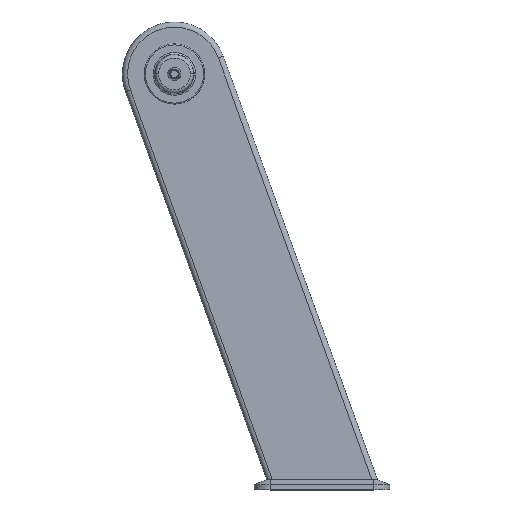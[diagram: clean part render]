
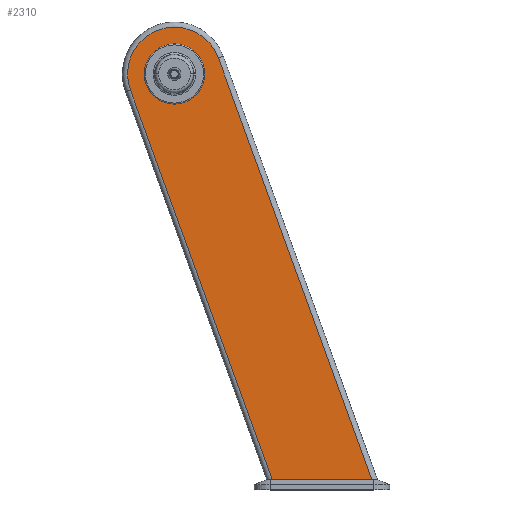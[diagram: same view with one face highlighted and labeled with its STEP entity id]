
A CAD part, top view. The second image highlights one B-rep face of the part: STEP entity #2310.
In plain terms, the highlighted planar face has unit normal (0, 0, 1).
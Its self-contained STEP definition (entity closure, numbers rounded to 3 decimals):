
#37 = VERTEX_POINT ( 'NONE', #642 ) ;
#413 = AXIS2_PLACEMENT_3D ( 'NONE', #1711, #523, #1894 ) ;
#495 = ORIENTED_EDGE ( 'NONE', *, *, #687, .F. ) ;
#503 = FACE_OUTER_BOUND ( 'NONE', #1535, .T. ) ;
#518 = DIRECTION ( 'NONE',  ( 0., 0., 1. ) ) ;
#523 = DIRECTION ( 'NONE',  ( 0., 0., 1. ) ) ;
#642 = CARTESIAN_POINT ( 'NONE',  ( 379.673, -780., 31.25 ) ) ;
#669 = DIRECTION ( 'NONE',  ( 0., 0., 1. ) ) ;
#671 = CARTESIAN_POINT ( 'NONE',  ( 84.572, 30.782, 31.25 ) ) ;
#687 = EDGE_CURVE ( 'NONE', #1901, #1868, #2146, .T. ) ;
#810 = DIRECTION ( 'NONE',  ( 1., 0., 0. ) ) ;
#817 = ORIENTED_EDGE ( 'NONE', *, *, #1228, .T. ) ;
#828 = EDGE_CURVE ( 'NONE', #2133, #1903, #1273, .T. ) ;
#842 = ORIENTED_EDGE ( 'NONE', *, *, #1104, .T. ) ;
#883 = EDGE_CURVE ( 'NONE', #1868, #1901, #1657, .T. ) ;
#929 = CARTESIAN_POINT ( 'NONE',  ( 0., 0., 31.25 ) ) ;
#972 = VECTOR ( 'NONE', #810, 1000. ) ;
#975 = EDGE_CURVE ( 'NONE', #37, #2133, #1030, .T. ) ;
#982 = CARTESIAN_POINT ( 'NONE',  ( 84.572, 30.782, 31.25 ) ) ;
#997 = CARTESIAN_POINT ( 'NONE',  ( -84.572, -30.782, 31.25 ) ) ;
#1030 = LINE ( 'NONE', #982, #2421 ) ;
#1056 = FACE_BOUND ( 'NONE', #2139, .T. ) ;
#1104 = EDGE_CURVE ( 'NONE', #1106, #37, #1794, .T. ) ;
#1106 = VERTEX_POINT ( 'NONE', #1958 ) ;
#1137 = DIRECTION ( 'NONE',  ( 1., 0., 0. ) ) ;
#1179 = CARTESIAN_POINT ( 'NONE',  ( 58., 0., 31.25 ) ) ;
#1228 = EDGE_CURVE ( 'NONE', #1903, #1106, #1496, .T. ) ;
#1273 = CIRCLE ( 'NONE', #1908, 90. ) ;
#1364 = CARTESIAN_POINT ( 'NONE',  ( -58., 0., 31.25 ) ) ;
#1422 = DIRECTION ( 'NONE',  ( 0.342, -0.94, 0. ) ) ;
#1496 = LINE ( 'NONE', #2001, #2507 ) ;
#1535 = EDGE_LOOP ( 'NONE', ( #817, #842, #2520, #1696 ) ) ;
#1657 = CIRCLE ( 'NONE', #413, 58. ) ;
#1696 = ORIENTED_EDGE ( 'NONE', *, *, #828, .T. ) ;
#1706 = CARTESIAN_POINT ( 'NONE',  ( 0., 0., 31.25 ) ) ;
#1711 = CARTESIAN_POINT ( 'NONE',  ( 0., 0., 31.25 ) ) ;
#1769 = CARTESIAN_POINT ( 'NONE',  ( 0., -780., 31.25 ) ) ;
#1794 = LINE ( 'NONE', #1769, #972 ) ;
#1837 = CARTESIAN_POINT ( 'NONE',  ( 0., 0., 31.25 ) ) ;
#1868 = VERTEX_POINT ( 'NONE', #1179 ) ;
#1890 = DIRECTION ( 'NONE',  ( 1., 0., 0. ) ) ;
#1894 = DIRECTION ( 'NONE',  ( 1., 0., 0. ) ) ;
#1901 = VERTEX_POINT ( 'NONE', #1364 ) ;
#1903 = VERTEX_POINT ( 'NONE', #997 ) ;
#1908 = AXIS2_PLACEMENT_3D ( 'NONE', #1837, #669, #2028 ) ;
#1958 = CARTESIAN_POINT ( 'NONE',  ( 188.121, -780., 31.25 ) ) ;
#2001 = CARTESIAN_POINT ( 'NONE',  ( 194.155, -796.58, 31.25 ) ) ;
#2028 = DIRECTION ( 'NONE',  ( 1., 0., 0. ) ) ;
#2074 = PLANE ( 'NONE',  #2496 ) ;
#2133 = VERTEX_POINT ( 'NONE', #671 ) ;
#2139 = EDGE_LOOP ( 'NONE', ( #2518, #495 ) ) ;
#2146 = CIRCLE ( 'NONE', #2212, 58. ) ;
#2212 = AXIS2_PLACEMENT_3D ( 'NONE', #1706, #518, #1890 ) ;
#2265 = DIRECTION ( 'NONE',  ( 0., 0., 1. ) ) ;
#2298 = DIRECTION ( 'NONE',  ( -0.342, 0.94, 0. ) ) ;
#2310 = ADVANCED_FACE ( 'NONE', ( #503, #1056 ), #2074, .T. ) ;
#2421 = VECTOR ( 'NONE', #2298, 1000. ) ;
#2496 = AXIS2_PLACEMENT_3D ( 'NONE', #929, #2265, #1137 ) ;
#2507 = VECTOR ( 'NONE', #1422, 1000. ) ;
#2518 = ORIENTED_EDGE ( 'NONE', *, *, #883, .F. ) ;
#2520 = ORIENTED_EDGE ( 'NONE', *, *, #975, .T. ) ;
